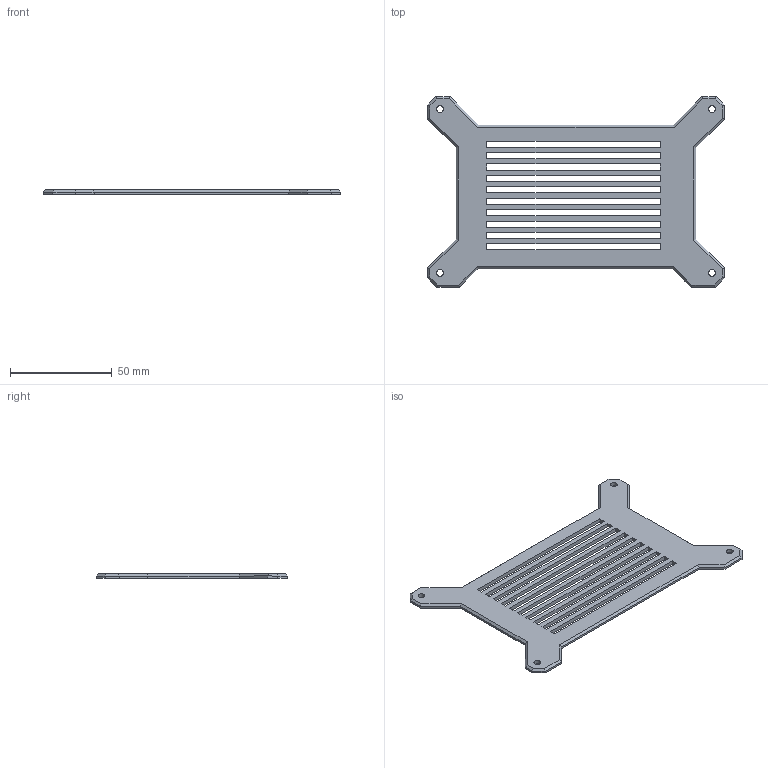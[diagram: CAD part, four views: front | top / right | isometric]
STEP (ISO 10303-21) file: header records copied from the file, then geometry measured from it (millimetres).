
FILE_DESCRIPTION(/* description */ ('Unknown'),/* implementation_level */ '2;1');
FILE_NAME(/* name */ 'cyberdeck_back_cover',/* time_stamp */ '2026-04-22T14:23:46+02:00',/* author */ ('Unknown'),/* organization */ ('Unknown'),/* preprocessor_version */ 'ST-DEVELOPER v16.7',/* originating_system */ 'DEX',/* authorisation */ $);
FILE_SCHEMA (('AUTOMOTIVE_DESIGN {1 0 10303 214 3 1 1}'));
Length unit declared in the file: millimetre
Products named in the file (1): cyberdeck_back_cover
Bounding box: 145.6 x 93.4 x 2 mm (x, y, z)
Volume: 13453.1 mm3; surface area: 18030.4 mm2
Topology: 1 solids, 1 shells, 94 faces, 256 edges, 164 vertices
Faces by surface type: plane 90, cylinder 4
Full cylindrical faces by diameter (mm): 3.3 x4
Entity records: 2918 total; most frequent: CARTESIAN_POINT 503, ORIENTED_EDGE 496, DIRECTION 446, EDGE_CURVE 248, LINE 240, VECTOR 240, VERTEX_POINT 160, EDGE_LOOP 126
